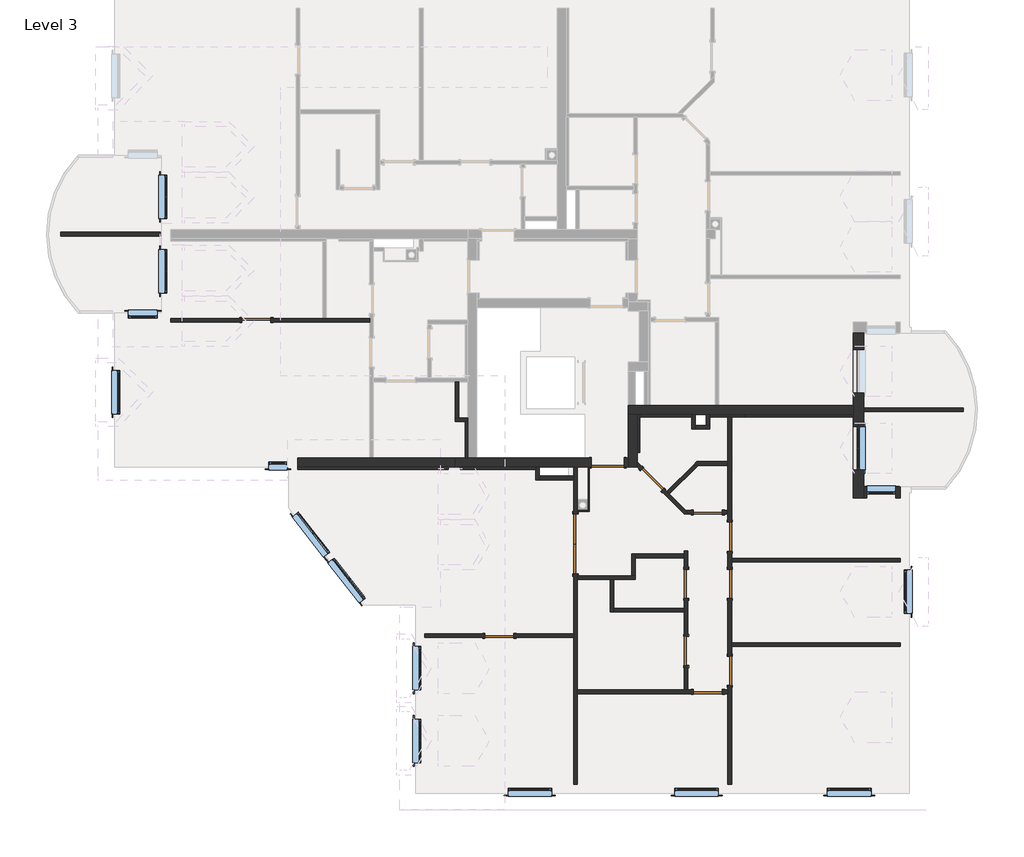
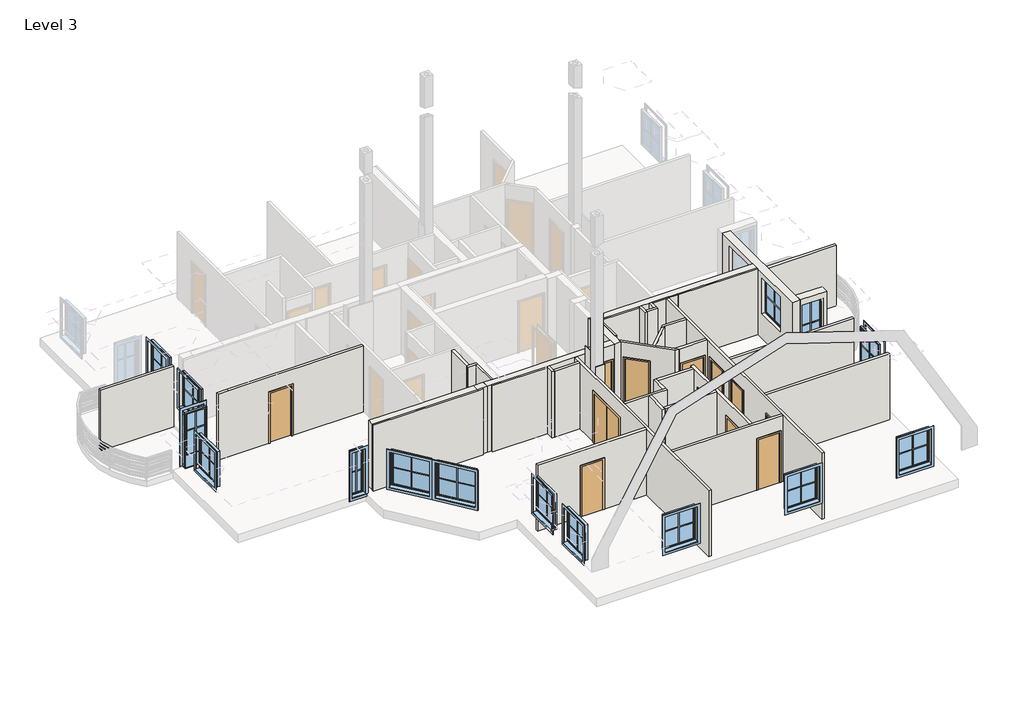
# One storey, part 1 of 5: 41 walls, 15 windows, 12 doors.
"""IFC4 building model written with IfcOpenShell, lengths in millimetres."""

from ifc_helpers import new_model, si_unit, frame, origin, place, context, project, spatial, polyline, outline, extrude, faceted_brep, transform, mapped, element, save
from components import m_double_flush_1640_x_2000mm_58610322, standard_door_sd_800x2000_6a16926d, standard_door_sd_800x2000_80f4ff25, standard_door_sd_900x2000_a6683946, standard_window_with_mullions_d3525f46, standard_window_with_mullions_80486b60, standard_window_with_mullions_8db575f9, window_2_775565f5, window_2_7caaedc8

model = new_model("IFC4")

# Units and contexts
model_context = context("Model", 3, world=origin())
ifc_project = project(units=[si_unit("LENGTHUNIT", "METRE", prefix="MILLI")], contexts=[model_context])

# Site, building, storey
site = spatial("IfcSite", under=ifc_project)
building = spatial("IfcBuilding", under=site)
storey = spatial("IfcBuildingStorey", under=building, Name="Level 3", Elevation=8850.0)

# Doors
placement = place(None, origin())
m_double_flush_1640_x_2000mm_shape = m_double_flush_1640_x_2000mm_58610322(model_context)
element("IfcDoor", 1, ObjectType="M_Double-Flush : 1640 x 2000mm", at=placement, inside=storey, context=model_context, shape_type="MappedRepresentation", body=[
    mapped(m_double_flush_1640_x_2000mm_shape, transform((113.5618728, -4202.3709459, 8850.0), x_axis=(0.0, 1.0, 0.0), y_axis=(-1.0, 0.0, 0.0), z_axis=(0.0, 0.0, 1.0))),
])
standard_door_sd_800x2000_shape = standard_door_sd_800x2000_6a16926d(model_context)
element("IfcDoor", 2, ObjectType="Standard Door : SD 800x2000", at=placement, inside=storey, context=model_context, shape_type="MappedRepresentation", body=[
    mapped(standard_door_sd_800x2000_shape, transform((3162.8037835, -5302.3942243, 8850.0), x_axis=(0.0, -1.0, 0.0), y_axis=(1.0, 0.0, 0.0), z_axis=(0.0, 0.0, 1.0))),
])
element("IfcDoor", 3, ObjectType="Standard Door : SD 800x2000", at=placement, inside=storey, context=model_context, shape_type="MappedRepresentation", body=[
    mapped(standard_door_sd_800x2000_shape, transform((3162.8037835, -7157.3709459, 8850.0), x_axis=(0.0, -1.0, 0.0), y_axis=(1.0, 0.0, 0.0), z_axis=(0.0, 0.0, 1.0))),
])
element("IfcDoor", 4, ObjectType="Standard Door : SD 800x2000", at=placement, inside=storey, context=model_context, shape_type="MappedRepresentation", body=[
    mapped(standard_door_sd_800x2000_shape, transform((4362.8037835, -4002.3976507, 8850.0), x_axis=(0.0, 1.0, 0.0), y_axis=(-1.0, 0.0, 0.0), z_axis=(0.0, 0.0, 1.0))),
])
element("IfcDoor", 5, ObjectType="Standard Door : SD 800x2000", at=placement, inside=storey, context=model_context, shape_type="MappedRepresentation", body=[
    mapped(standard_door_sd_800x2000_shape, transform((2229.9981852, -2428.8520044, 8850.0), x_axis=(-0.7071057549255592, 0.7071078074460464, 0.0), y_axis=(-0.7071078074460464, -0.7071057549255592, 0.0), z_axis=(0.0, 0.0, 1.0))),
])
element("IfcDoor", 6, ObjectType="Standard Door : SD 800x2000", at=placement, inside=storey, context=model_context, shape_type="MappedRepresentation", body=[
    mapped(standard_door_sd_800x2000_shape, transform((-8680.4610589, 1967.6290541, 8850.0), x_axis=(-1.0, 0.0, 0.0), y_axis=(0.0, -1.0, 0.0), z_axis=(0.0, 0.0, 1.0))),
])
standard_door_sd_800x2000_2_shape = standard_door_sd_800x2000_80f4ff25(model_context)
element("IfcDoor", 7, ObjectType="Standard Door : SD 800x2000", at=placement, inside=storey, context=model_context, shape_type="MappedRepresentation", body=[
    mapped(standard_door_sd_800x2000_2_shape, transform((-1986.8171719, -6732.3709459, 8850.0), x_axis=(-1.0, 0.0, 0.0), y_axis=(0.0, -1.0, 0.0), z_axis=(0.0, 0.0, 1.0))),
])
element("IfcDoor", 8, ObjectType="Standard Door : SD 800x2000", at=placement, inside=storey, context=model_context, shape_type="MappedRepresentation", body=[
    mapped(standard_door_sd_800x2000_2_shape, transform((3762.8037834, -8282.3709459, 8850.0), x_axis=(-1.0, 0.0, 0.0), y_axis=(0.0, -1.0, 0.0), z_axis=(0.0, 0.0, 1.0))),
])
element("IfcDoor", 9, ObjectType="Standard Door : SD 800x2000", at=placement, inside=storey, context=model_context, shape_type="MappedRepresentation", body=[
    mapped(standard_door_sd_800x2000_2_shape, transform((4362.8037835, -5302.394226, 8850.0), x_axis=(0.0, -1.0, 0.0), y_axis=(1.0, 0.0, 0.0), z_axis=(0.0, 0.0, 1.0))),
])
element("IfcDoor", 10, ObjectType="Standard Door : SD 800x2000", at=placement, inside=storey, context=model_context, shape_type="MappedRepresentation", body=[
    mapped(standard_door_sd_800x2000_2_shape, transform((4362.8037835, -7700.6759544, 8850.0), x_axis=(0.0, -1.0, 0.0), y_axis=(1.0, 0.0, 0.0), z_axis=(0.0, 0.0, 1.0))),
])
element("IfcDoor", 11, ObjectType="Standard Door : SD 800x2000", at=placement, inside=storey, context=model_context, shape_type="MappedRepresentation", body=[
    mapped(standard_door_sd_800x2000_2_shape, transform((3762.8037834, -3332.3709459, 8850.0), x_axis=(-0.9999999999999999, 0.0, 0.0), y_axis=(0.0, -0.9999999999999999, 0.0), z_axis=(0.0, 0.0, 1.0))),
])
standard_door_sd_900x2000_shape = standard_door_sd_900x2000_a6683946(model_context)
element("IfcDoor", 12, ObjectType="Standard Door : SD 900x2000", at=placement, inside=storey, context=model_context, shape_type="MappedRepresentation", body=[
    mapped(standard_door_sd_900x2000_shape, transform((1002.808136, -1957.3709459, 8850.0), x_axis=(1.0, 0.0, 0.0), y_axis=(0.0, 1.0, 0.0), z_axis=(0.0, 0.0, 1.0))),
])

# Walls
element("IfcWall", 13, ObjectType="Exterior - 100mm", at=placement, inside=storey, context=model_context, shape_type="SweptSolid", body=[
    extrude(outline(polyline([(-14076.3140436, 4392.6290541), (-11337.1962165, 4392.6290541), (-11337.1962165, 4292.6290541), (-14076.3140436, 4292.6290541), (-14076.3140436, 4392.6290541)])), frame((0.0, 0.0, 8850.0), z_axis=(0.0, 0.0, 1.0), x_axis=(1.0, 0.0, 0.0)), (0.0, 0.0, 1.0), 2400.0),
])
element("IfcWall", 14, ObjectType="Exterior - 100mm", at=placement, inside=storey, context=model_context, shape_type="SweptSolid", body=[
    extrude(outline(polyline([(10801.9216105, -557.3709459), (8062.8037835, -557.3709459), (8062.8037835, -457.3709459), (10801.9216105, -457.3709459), (10801.9216105, -557.3709459)])), frame((0.0, 0.0, 8850.0), z_axis=(0.0, 0.0, 1.0), x_axis=(1.0, 0.0, 0.0)), (0.0, 0.0, 1.0), 2400.0),
])
element("IfcWall", 15, ObjectType="Exterior - 250 + 50mm", at=placement, inside=storey, context=model_context, shape_type="Brep", body=[
    faceted_brep([(7762.8037835, -2932.3709459, 8850.0), (7762.8037835, -697.3709459, 8850.0), (7762.8037835, -632.3709459, 8850.0), (7762.8037835, -382.3709459, 8850.0), (7762.8037835, 1617.6290541, 8850.0), (8062.8037835, 1617.6290541, 8850.0), (8062.8037835, -457.3709459, 8850.0), (8062.8037835, -557.3709459, 8850.0), (8062.8037835, -2632.3709459, 8850.0), (8062.8037835, -2932.3709459, 8850.0), (7762.8037835, -2932.3709459, 11480.0), (7762.8037835, -697.3709459, 11480.0), (7762.8037835, -632.3709459, 11480.0), (7762.8037835, -382.3709459, 11480.0), (7762.8037835, 1617.6290541, 11480.0), (7762.8037835, -963.5367865, 9850.0), (7762.8037835, -963.5367865, 11250.0), (7762.8037835, -2163.5367865, 11250.0), (7762.8037835, -2163.5367865, 9850.0), (7762.8037835, 1155.9947187, 9850.0), (7762.8037835, 1155.9947187, 11250.0), (7762.8037835, -44.0052813, 11250.0), (7762.8037835, -44.0052813, 9850.0), (8062.8037835, 1617.6290541, 11480.0), (8062.8037835, -2632.3709459, 11480.0), (8062.8037835, -2932.3709459, 11480.0), (8062.8037835, -963.5367865, 9850.0), (8062.8037835, -2163.5367865, 9850.0), (8062.8037835, -2163.5367865, 11250.0), (8062.8037835, -963.5367865, 11250.0), (8062.8037835, 1155.9947187, 9850.0), (8062.8037835, -44.0052813, 9850.0), (8062.8037835, -44.0052813, 11250.0), (8062.8037835, 1155.9947187, 11250.0)], [[[0, 1, 2, 3, 4, 5, 6, 7, 8, 9]], [[4, 3, 2, 1, 0, 10, 11, 12, 13, 14], [15, 16, 17, 18], [19, 20, 21, 22]], [[5, 23, 24, 25, 9, 8, 7, 6], [26, 27, 28, 29], [30, 31, 32, 33]], [[4, 14, 23, 5]], [[10, 0, 9, 25]], [[14, 13, 12, 11, 10, 25, 24, 23]], [[16, 15, 26, 29]], [[17, 16, 29, 28]], [[18, 17, 28, 27]], [[15, 18, 27, 26]], [[20, 19, 30, 33]], [[21, 20, 33, 32]], [[22, 21, 32, 31]], [[19, 22, 31, 30]]]),
])
element("IfcWall", 16, ObjectType="Exterior - 250+50mm", at=placement, inside=storey, context=model_context, shape_type="SweptSolid", body=[
    extrude(outline(polyline([(11250.0, 8932.977935), (8850.0, 8932.977935), (8850.0, 9062.8037835), (11480.0, 9062.8037835), (11480.0, 8062.8037835), (8850.0, 8062.8037835), (8850.0, 8132.977935), (11250.0, 8132.977935), (11250.0, 8932.977935)])), frame((0.0, -2932.3709459, 0.0), z_axis=(0.0, 1.0, 0.0), x_axis=(0.0, 0.0, 1.0)), (0.0, 0.0, 1.0), 300.0),
])
element("IfcWall", 17, ObjectType="Interior - 100mm", at=placement, inside=storey, context=model_context, shape_type="SweptSolid", body=[
    extrude(outline(polyline([(-3207.1962165, -732.3709459), (-3207.1962165, 267.6290541), (-3107.1962165, 267.6290541), (-3107.1962165, -732.3709459), (-3207.1962165, -732.3709459)])), frame((0.0, 0.0, 8850.0), z_axis=(0.0, 0.0, 1.0), x_axis=(1.0, 0.0, 0.0)), (0.0, 0.0, 1.0), 2630.0),
])
element("IfcWall", 18, ObjectType="Interior - 100mm", at=placement, inside=storey, context=model_context, shape_type="Brep", body=[
    faceted_brep([(-3207.1962165, -832.3709459, 8850.0), (-2922.1962165, -832.3709459, 8850.0), (-2857.1962165, -832.3709459, 8850.0), (-2857.1962165, -832.3709459, 11480.0), (-2922.1962165, -832.3709459, 11480.0), (-3207.1962165, -832.3709459, 11480.0), (-3207.1962165, -732.3709459, 8850.0), (-3207.1962165, -732.3709459, 11480.0), (-3107.1962165, -732.3709459, 11480.0), (-2857.1962165, -732.3709459, 11480.0), (-2857.1962165, -732.3709459, 8850.0), (-3107.1962165, -732.3709459, 8850.0)], [[[0, 1, 2, 3, 4, 5]], [[6, 7, 8, 9, 10, 11]], [[2, 1, 0, 6, 11, 10]], [[0, 5, 7, 6]], [[3, 2, 10, 9]], [[5, 4, 3, 9, 8, 7]]]),
])
element("IfcWall", 19, ObjectType="Interior - 100mm", at=placement, inside=storey, context=model_context, shape_type="Brep", body=[
    faceted_brep([(-986.4381272, -2082.3709459, 8850.0), (-986.4381272, -2147.3709459, 8850.0), (-986.4381272, -2432.3709459, 8850.0), (-986.4381272, -2432.3709459, 11480.0), (-986.4381272, -2147.3709459, 11480.0), (-986.4381272, -2082.3709459, 11480.0), (-886.4381272, -2082.3709459, 8850.0), (-886.4381272, -2082.3709459, 11480.0), (-886.4381272, -2332.3709459, 11480.0), (-886.4381272, -2432.3709459, 11480.0), (-886.4381272, -2432.3709459, 8850.0), (-886.4381272, -2332.3709459, 8850.0)], [[[0, 1, 2, 3, 4, 5]], [[6, 7, 8, 9, 10, 11]], [[2, 1, 0, 6, 11, 10]], [[3, 2, 10, 9]], [[0, 5, 7, 6]], [[5, 4, 3, 9, 8, 7]]]),
])
element("IfcWall", 20, ObjectType="Interior - 100mm", at=placement, inside=storey, context=model_context, shape_type="Brep", body=[
    faceted_brep([(-886.4381272, -2432.3709459, 8850.0), (63.5618728, -2432.3709459, 8850.0), (63.5618728, -2432.3709459, 11480.0), (-886.4381272, -2432.3709459, 11480.0), (-886.4381272, -2332.3709459, 8850.0), (-886.4381272, -2332.3709459, 11480.0), (-86.4381272, -2332.3709459, 11480.0), (63.5618728, -2332.3709459, 11480.0), (63.5618728, -2332.3709459, 8850.0)], [[[0, 1, 2, 3]], [[4, 5, 6, 7, 8]], [[1, 0, 4, 8]], [[0, 3, 5, 4]], [[2, 1, 8, 7]], [[3, 2, 7, 6, 5]]]),
])
element("IfcWall", 21, ObjectType="Interior - 100mm", at=placement, inside=storey, context=model_context, shape_type="Brep", body=[
    faceted_brep([(3312.8037835, -632.3709459, 8850.0), (3312.8037835, -697.3709459, 8850.0), (3312.8037835, -1032.3709459, 8850.0), (3312.8037835, -1032.3709459, 11480.0), (3312.8037835, -697.3709459, 11480.0), (3312.8037835, -632.3709459, 11480.0), (3412.8037835, -632.3709459, 8850.0), (3412.8037835, -632.3709459, 11480.0), (3412.8037835, -932.3709459, 11480.0), (3412.8037835, -1032.3709459, 11480.0), (3412.8037835, -1032.3709459, 8850.0), (3412.8037835, -932.3709459, 8850.0)], [[[0, 1, 2, 3, 4, 5]], [[6, 7, 8, 9, 10, 11]], [[2, 1, 0, 6, 11, 10]], [[3, 2, 10, 9]], [[0, 5, 7, 6]], [[5, 4, 3, 9, 8, 7]]]),
])
element("IfcWall", 22, ObjectType="Interior - 100mm", at=placement, inside=storey, context=model_context, shape_type="Brep", body=[
    faceted_brep([(3412.8037835, -1032.3709459, 8850.0), (3812.8037835, -1032.3709459, 8850.0), (3812.8037835, -1032.3709459, 11480.0), (3412.8037835, -1032.3709459, 11480.0), (3412.8037835, -932.3709459, 8850.0), (3412.8037835, -932.3709459, 11480.0), (3712.8037835, -932.3709459, 11480.0), (3812.8037835, -932.3709459, 11480.0), (3812.8037835, -932.3709459, 8850.0), (3712.8037835, -932.3709459, 8850.0)], [[[0, 1, 2, 3]], [[4, 5, 6, 7, 8, 9]], [[1, 0, 4, 9, 8]], [[2, 1, 8, 7]], [[0, 3, 5, 4]], [[3, 2, 7, 6, 5]]]),
])
element("IfcWall", 23, ObjectType="Interior - 100mm", at=placement, inside=storey, context=model_context, shape_type="Brep", body=[
    faceted_brep([(3812.8037835, -932.3709459, 8850.0), (3812.8037835, -697.3709459, 8850.0), (3812.8037835, -632.3709459, 8850.0), (3812.8037835, -632.3709459, 11480.0), (3812.8037835, -697.3709459, 11480.0), (3812.8037835, -932.3709459, 11480.0), (3712.8037835, -932.3709459, 8850.0), (3712.8037835, -932.3709459, 11480.0), (3712.8037835, -632.3709459, 11480.0), (3712.8037835, -632.3709459, 8850.0)], [[[0, 1, 2, 3, 4, 5]], [[6, 7, 8, 9]], [[2, 1, 0, 6, 9]], [[0, 5, 7, 6]], [[3, 2, 9, 8]], [[5, 4, 3, 8, 7]]]),
])
element("IfcWall", 24, ObjectType="Interior - 100mm", at=placement, inside=storey, context=model_context, shape_type="Brep", body=[
    faceted_brep([(63.5618728, -2097.3540193, 8850.0), (63.5618728, -2097.3540193, 11480.0), (163.5618728, -2097.3540193, 11480.0), (163.5618728, -2097.3540193, 8850.0), (163.5618728, -3282.3709459, 8850.0), (163.5618728, -3312.3709459, 8850.0), (163.5618728, -3382.3709459, 8850.0), (63.5618728, -3382.3709459, 8850.0), (63.5618728, -2432.3709459, 8850.0), (63.5618728, -2332.3709459, 8850.0), (163.5618728, -5022.3709459, 8850.0), (163.5618728, -5082.3709459, 8850.0), (163.5618728, -5182.3709459, 8850.0), (163.5618728, -8232.3709459, 8850.0), (163.5618728, -8332.3709459, 8850.0), (163.5618728, -10832.3709459, 8850.0), (63.5618728, -10832.3709459, 8850.0), (63.5618728, -6782.3709459, 8850.0), (63.5618728, -6682.3709459, 8850.0), (63.5618728, -5022.3709459, 8850.0), (63.5618728, -3382.3709459, 10850.0), (63.5618728, -5022.3709459, 10850.0), (63.5618728, -10832.3709459, 11480.0), (63.5618728, -6782.3709459, 11480.0), (63.5618728, -6682.3709459, 11480.0), (63.5618728, -2432.3709459, 11480.0), (63.5618728, -2332.3709459, 11480.0), (163.5618728, -3382.3709459, 10850.0), (163.5618728, -5082.3709459, 11480.0), (163.5618728, -5182.3709459, 11480.0), (163.5618728, -8232.3709459, 11480.0), (163.5618728, -8332.3709459, 11480.0), (163.5618728, -10832.3709459, 11480.0), (163.5618728, -5022.3709459, 10850.0)], [[[0, 1, 2, 3]], [[3, 4, 5, 6, 7, 8, 9, 0]], [[10, 11, 12, 13, 14, 15, 16, 17, 18, 19]], [[0, 9, 8, 7, 20, 21, 19, 18, 17, 16, 22, 23, 24, 25, 26, 1]], [[27, 6, 5, 4, 3, 2, 28, 29, 30, 31, 32, 15, 14, 13, 12, 11, 10, 33]], [[22, 16, 15, 32]], [[1, 26, 25, 24, 23, 22, 32, 31, 30, 29, 28, 2]], [[20, 7, 6, 27]], [[21, 20, 27, 33]], [[19, 21, 33, 10]]]),
])
element("IfcWall", 25, ObjectType="Interior - 100mm", at=placement, inside=storey, context=model_context, shape_type="SweptSolid", body=[
    extrude(outline(polyline([(8850.0, -4037.1962165), (8850.0, -2386.8171719), (10850.0, -2386.8171719), (10850.0, -1586.8171719), (8850.0, -1586.8171719), (8850.0, 63.5618728), (11480.0, 63.5618728), (11480.0, -4037.1962165), (8850.0, -4037.1962165)])), frame((0.0, -6782.3709459, 0.0), z_axis=(0.0, 1.0, 0.0), x_axis=(0.0, 0.0, 1.0)), (0.0, 0.0, 1.0), 100.0),
])
element("IfcWall", 26, ObjectType="Interior - 100mm", at=placement, inside=storey, context=model_context, shape_type="Brep", body=[
    faceted_brep([(163.5618728, -5182.3709459, 8850.0), (1063.5618728, -5182.3709459, 8850.0), (1163.5618728, -5182.3709459, 8850.0), (1763.5618728, -5182.3709459, 8850.0), (1763.5618728, -5182.3709459, 11480.0), (1163.5618728, -5182.3709459, 11480.0), (1063.5618728, -5182.3709459, 11480.0), (163.5618728, -5182.3709459, 11480.0), (163.5618728, -5082.3709459, 8850.0), (163.5618728, -5082.3709459, 11480.0), (1663.5618728, -5082.3709459, 11480.0), (1763.5618728, -5082.3709459, 11480.0), (1763.5618728, -5082.3709459, 8850.0), (1663.5618728, -5082.3709459, 8850.0)], [[[0, 1, 2, 3, 4, 5, 6, 7]], [[8, 9, 10, 11, 12, 13]], [[3, 2, 1, 0, 8, 13, 12]], [[4, 3, 12, 11]], [[0, 7, 9, 8]], [[7, 6, 5, 4, 11, 10, 9]]]),
])
element("IfcWall", 27, ObjectType="Interior - 100mm", at=placement, inside=storey, context=model_context, shape_type="Brep", body=[
    faceted_brep([(1763.5618728, -5082.3709459, 8850.0), (1763.5618728, -4582.3709459, 8850.0), (1763.5618728, -4482.3709459, 8850.0), (1763.5618728, -4482.3709459, 11480.0), (1763.5618728, -4582.3709459, 11480.0), (1763.5618728, -5082.3709459, 11480.0), (1663.5618728, -5082.3709459, 8850.0), (1663.5618728, -5082.3709459, 11480.0), (1663.5618728, -4482.3709459, 11480.0), (1663.5618728, -4482.3709459, 8850.0)], [[[0, 1, 2, 3, 4, 5]], [[6, 7, 8, 9]], [[2, 1, 0, 6, 9]], [[3, 2, 9, 8]], [[0, 5, 7, 6]], [[5, 4, 3, 8, 7]]]),
])
element("IfcWall", 28, ObjectType="Interior - 100mm", at=placement, inside=storey, context=model_context, shape_type="SweptSolid", body=[
    extrude(outline(polyline([(3112.8037835, -4582.3709459), (1763.5618728, -4582.3709459), (1763.5618728, -4482.3709459), (3112.8037835, -4482.3709459), (3112.8037835, -4582.3709459)])), frame((0.0, 0.0, 8850.0), z_axis=(0.0, 0.0, 1.0), x_axis=(1.0, 0.0, 0.0)), (0.0, 0.0, 1.0), 2630.0),
])
element("IfcWall", 29, ObjectType="Interior - 100mm", at=placement, inside=storey, context=model_context, shape_type="Brep", body=[
    faceted_brep([(3112.8037835, -4397.3540193, 8850.0), (3112.8037835, -4397.3540193, 11480.0), (3212.8037835, -4397.3540193, 11480.0), (3212.8037835, -4397.3540193, 8850.0), (3112.8037835, -8232.3709459, 8850.0), (3112.8037835, -7557.3709459, 8850.0), (3212.8037835, -7557.3709459, 8850.0), (3212.8037835, -8232.3709459, 8850.0), (3112.8037835, -4902.3942243, 8850.0), (3112.8037835, -4582.3709459, 8850.0), (3112.8037835, -4482.3709459, 8850.0), (3212.8037835, -4902.3942243, 8850.0), (3112.8037835, -6757.3709459, 8850.0), (3112.8037835, -6082.3709459, 8850.0), (3112.8037835, -5982.3709459, 8850.0), (3112.8037835, -5702.3942243, 8850.0), (3212.8037835, -5702.3942243, 8850.0), (3212.8037835, -6757.3709459, 8850.0), (3112.8037835, -7557.3709459, 10850.0), (3112.8037835, -8232.3709459, 11480.0), (3112.8037835, -6082.3709459, 11480.0), (3112.8037835, -5982.3709459, 11480.0), (3112.8037835, -4582.3709459, 11480.0), (3112.8037835, -4482.3709459, 11480.0), (3112.8037835, -4902.3942243, 10850.0), (3112.8037835, -5702.3942243, 10850.0), (3112.8037835, -6757.3709459, 10850.0), (3212.8037835, -7557.3709459, 10850.0), (3212.8037835, -6757.3709459, 10850.0), (3212.8037835, -5702.3942243, 10850.0), (3212.8037835, -4902.3942243, 10850.0), (3212.8037835, -8232.3709459, 11480.0)], [[[0, 1, 2, 3]], [[4, 5, 6, 7]], [[8, 9, 10, 0, 3, 11]], [[12, 13, 14, 15, 16, 17]], [[18, 5, 4, 19, 20, 21, 22, 23, 1, 0, 10, 9, 8, 24, 25, 15, 14, 13, 12, 26]], [[7, 6, 27, 28, 17, 16, 29, 30, 11, 3, 2, 31]], [[19, 4, 7, 31]], [[1, 23, 22, 21, 20, 19, 31, 2]], [[29, 16, 15, 25]], [[30, 29, 25, 24]], [[11, 30, 24, 8]], [[27, 6, 5, 18]], [[28, 27, 18, 26]], [[17, 28, 26, 12]]]),
])
element("IfcWall", 30, ObjectType="Interior - 100mm", at=placement, inside=storey, context=model_context, shape_type="Brep", body=[
    faceted_brep([(1063.5618728, -5182.3709459, 8850.0), (1063.5618728, -6082.3709459, 8850.0), (1063.5618728, -6082.3709459, 11480.0), (1063.5618728, -5182.3709459, 11480.0), (1163.5618728, -5182.3709459, 8850.0), (1163.5618728, -5182.3709459, 11480.0), (1163.5618728, -5982.3709459, 11480.0), (1163.5618728, -6082.3709459, 11480.0), (1163.5618728, -6082.3709459, 8850.0), (1163.5618728, -5982.3709459, 8850.0)], [[[0, 1, 2, 3]], [[4, 5, 6, 7, 8, 9]], [[1, 0, 4, 9, 8]], [[2, 1, 8, 7]], [[0, 3, 5, 4]], [[3, 2, 7, 6, 5]]]),
])
element("IfcWall", 31, ObjectType="Interior - 100mm", at=placement, inside=storey, context=model_context, shape_type="SweptSolid", body=[
    extrude(outline(polyline([(3112.8037835, -6082.3709459), (1163.5618728, -6082.3709459), (1163.5618728, -5982.3709459), (3112.8037835, -5982.3709459), (3112.8037835, -6082.3709459)])), frame((0.0, 0.0, 8850.0), z_axis=(0.0, 0.0, 1.0), x_axis=(1.0, 0.0, 0.0)), (0.0, 0.0, 1.0), 2630.0),
])
element("IfcWall", 32, ObjectType="Interior - 100mm", at=placement, inside=storey, context=model_context, shape_type="Brep", body=[
    faceted_brep([(163.5618728, -8232.3709459, 8850.0), (3112.8037835, -8232.3709459, 8850.0), (3212.8037835, -8232.3709459, 8850.0), (3362.8037834, -8232.3709459, 8850.0), (3362.8037834, -8332.3709459, 8850.0), (163.5618728, -8332.3709459, 8850.0), (4162.8037834, -8232.3709459, 8850.0), (4312.8037835, -8232.3709459, 8850.0), (4312.8037835, -8332.3709459, 8850.0), (4162.8037834, -8332.3709459, 8850.0), (3362.8037834, -8332.3709459, 10850.0), (4162.8037834, -8332.3709459, 10850.0), (4312.8037835, -8332.3709459, 11480.0), (163.5618728, -8332.3709459, 11480.0), (3362.8037834, -8232.3709459, 10850.0), (163.5618728, -8232.3709459, 11480.0), (3112.8037835, -8232.3709459, 11480.0), (3212.8037835, -8232.3709459, 11480.0), (4312.8037835, -8232.3709459, 11480.0), (4162.8037834, -8232.3709459, 10850.0)], [[[0, 1, 2, 3, 4, 5]], [[6, 7, 8, 9]], [[5, 4, 10, 11, 9, 8, 12, 13]], [[14, 3, 2, 1, 0, 15, 16, 17, 18, 7, 6, 19]], [[5, 13, 15, 0]], [[12, 8, 7, 18]], [[13, 12, 18, 17, 16, 15]], [[10, 4, 3, 14]], [[11, 10, 14, 19]], [[9, 11, 19, 6]]]),
])
element("IfcWall", 33, ObjectType="Interior - 100mm", at=placement, inside=storey, context=model_context, shape_type="Brep", body=[
    faceted_brep([(1812.8076722, -1940.9494996, 8850.0), (1982.5112736, -2110.6535936, 8850.0), (1911.8004928, -2181.3641691, 8850.0), (1812.807557, -2082.3709459, 8850.0), (2548.1958775, -2676.3398396, 8850.0), (2629.2247893, -2757.3689866, 8850.0), (2699.9353648, -2828.0797673, 8850.0), (3154.2252247, -3282.3709459, 8850.0), (3254.2249345, -3382.3709459, 8850.0), (3112.8037835, -3382.3709459, 8850.0), (2477.4850968, -2747.0504151, 8850.0), (1911.8004928, -2181.3641691, 10850.0), (2477.4850968, -2747.0504151, 10850.0), (3112.8037835, -3382.3709459, 11480.0), (1812.807557, -2082.3709459, 11480.0), (1982.5112736, -2110.6535936, 10850.0), (1812.8076722, -1940.9494996, 11480.0), (2629.2247893, -2757.3689866, 11480.0), (2699.9353648, -2828.0797673, 11480.0), (3154.2252247, -3282.3709459, 11480.0), (3254.2249345, -3382.3709459, 11480.0), (2548.1958775, -2676.3398396, 10850.0)], [[[0, 1, 2, 3]], [[4, 5, 6, 7, 8, 9, 10]], [[3, 2, 11, 12, 10, 9, 13, 14]], [[15, 1, 0, 16, 17, 18, 19, 20, 8, 7, 6, 5, 4, 21]], [[3, 14, 16, 0]], [[13, 9, 8, 20]], [[14, 13, 20, 19, 18, 17, 16]], [[11, 2, 1, 15]], [[12, 11, 15, 21]], [[10, 12, 21, 4]]]),
])
element("IfcWall", 34, ObjectType="Interior - 100mm", at=placement, inside=storey, context=model_context, shape_type="Brep", body=[
    faceted_brep([(3154.2252247, -3282.3709459, 8850.0), (3362.8037834, -3282.3709459, 8850.0), (3362.8037834, -3382.3709459, 8850.0), (3254.2249345, -3382.3709459, 8850.0), (4162.8037834, -3282.3709459, 8850.0), (4312.8037835, -3282.3709459, 8850.0), (4312.8037835, -3382.3709459, 8850.0), (4162.8037834, -3382.3709459, 8850.0), (3362.8037834, -3382.3709459, 10850.0), (4162.8037834, -3382.3709459, 10850.0), (4312.8037835, -3382.3709459, 11480.0), (3254.2249345, -3382.3709459, 11480.0), (3362.8037834, -3282.3709459, 10850.0), (3154.2252247, -3282.3709459, 11480.0), (4312.8037835, -3282.3709459, 11480.0), (4162.8037834, -3282.3709459, 10850.0)], [[[0, 1, 2, 3]], [[4, 5, 6, 7]], [[3, 2, 8, 9, 7, 6, 10, 11]], [[12, 1, 0, 13, 14, 5, 4, 15]], [[3, 11, 13, 0]], [[10, 6, 5, 14]], [[11, 10, 14, 13]], [[8, 2, 1, 12]], [[9, 8, 12, 15]], [[7, 9, 15, 4]]]),
])
element("IfcWall", 35, ObjectType="Interior - 100mm", at=placement, inside=storey, context=model_context, shape_type="Brep", body=[
    faceted_brep([(4312.8037835, -1932.3709459, 8850.0), (3454.2252247, -1932.3709459, 8850.0), (3454.2252247, -1932.3709459, 11480.0), (4312.8037835, -1932.3709459, 11480.0), (4312.8037835, -2032.3709459, 8850.0), (4312.8037835, -2032.3709459, 11480.0), (3495.6464959, -2032.3709459, 11480.0), (3354.2249345, -2032.3709459, 11480.0), (3354.2249345, -2032.3709459, 8850.0), (3495.6464959, -2032.3709459, 8850.0)], [[[0, 1, 2, 3]], [[4, 5, 6, 7, 8, 9]], [[1, 0, 4, 9, 8]], [[2, 1, 8, 7]], [[0, 3, 5, 4]], [[3, 2, 7, 6, 5]]]),
])
element("IfcWall", 36, ObjectType="Interior - 100mm", at=placement, inside=storey, context=model_context, shape_type="SweptSolid", body=[
    extrude(outline(polyline([(2629.2247893, -2757.3689866), (3354.2249345, -2032.3709459), (3495.6464959, -2032.3709459), (2699.9353648, -2828.0797673), (2629.2247893, -2757.3689866)])), frame((0.0, 0.0, 8850.0), z_axis=(0.0, 0.0, 1.0), x_axis=(1.0, 0.0, 0.0)), (0.0, 0.0, 1.0), 2630.0),
])
element("IfcWall", 37, ObjectType="Interior - 100mm", at=placement, inside=storey, context=model_context, shape_type="Brep", body=[
    faceted_brep([(4312.8037835, -10832.3709459, 8850.0), (4312.8037835, -8332.3709459, 8850.0), (4312.8037835, -8232.3709459, 8850.0), (4312.8037835, -8100.6759544, 8850.0), (4412.8037835, -8100.6759544, 8850.0), (4412.8037835, -10832.3709459, 8850.0), (4412.8037835, -697.3709459, 8850.0), (4412.8037835, -3602.3976507, 8850.0), (4312.8037835, -3602.3976507, 8850.0), (4312.8037835, -3382.3709459, 8850.0), (4312.8037835, -3282.3709459, 8850.0), (4312.8037835, -2032.3709459, 8850.0), (4312.8037835, -1932.3709459, 8850.0), (4312.8037835, -697.3709459, 8850.0), (4312.8037835, -7300.6759544, 8850.0), (4312.8037835, -5702.394226, 8850.0), (4412.8037835, -5702.394226, 8850.0), (4412.8037835, -6932.3709459, 8850.0), (4412.8037835, -7032.3709459, 8850.0), (4412.8037835, -7300.6759544, 8850.0), (4412.8037835, -4402.3976507, 8850.0), (4412.8037835, -4602.3709459, 8850.0), (4412.8037835, -4702.3709459, 8850.0), (4412.8037835, -4902.394226, 8850.0), (4312.8037835, -4902.394226, 8850.0), (4312.8037835, -4402.3976507, 8850.0), (4312.8037835, -3602.3976507, 10850.0), (4312.8037835, -4402.3976507, 10850.0), (4312.8037835, -4902.394226, 10850.0), (4312.8037835, -5702.394226, 10850.0), (4312.8037835, -7300.6759544, 10850.0), (4312.8037835, -8100.6759544, 10850.0), (4312.8037835, -10832.3709459, 11480.0), (4312.8037835, -8332.3709459, 11480.0), (4312.8037835, -8232.3709459, 11480.0), (4312.8037835, -3382.3709459, 11480.0), (4312.8037835, -3282.3709459, 11480.0), (4312.8037835, -2032.3709459, 11480.0), (4312.8037835, -1932.3709459, 11480.0), (4312.8037835, -697.3709459, 11480.0), (4412.8037835, -3602.3976507, 10850.0), (4412.8037835, -697.3709459, 11480.0), (4412.8037835, -4602.3709459, 11480.0), (4412.8037835, -4702.3709459, 11480.0), (4412.8037835, -6932.3709459, 11480.0), (4412.8037835, -7032.3709459, 11480.0), (4412.8037835, -10832.3709459, 11480.0), (4412.8037835, -8100.6759544, 10850.0), (4412.8037835, -7300.6759544, 10850.0), (4412.8037835, -5702.394226, 10850.0), (4412.8037835, -4902.394226, 10850.0), (4412.8037835, -4402.3976507, 10850.0)], [[[0, 1, 2, 3, 4, 5]], [[6, 7, 8, 9, 10, 11, 12, 13]], [[14, 15, 16, 17, 18, 19]], [[20, 21, 22, 23, 24, 25]], [[13, 12, 11, 10, 9, 8, 26, 27, 25, 24, 28, 29, 15, 14, 30, 31, 3, 2, 1, 0, 32, 33, 34, 35, 36, 37, 38, 39]], [[40, 7, 6, 41, 42, 43, 44, 45, 46, 5, 4, 47, 48, 19, 18, 17, 16, 49, 50, 23, 22, 21, 20, 51]], [[32, 0, 5, 46]], [[13, 39, 41, 6]], [[39, 38, 37, 36, 35, 34, 33, 32, 46, 45, 44, 43, 42, 41]], [[49, 16, 15, 29]], [[50, 49, 29, 28]], [[23, 50, 28, 24]], [[47, 4, 3, 31]], [[48, 47, 31, 30]], [[19, 48, 30, 14]], [[26, 8, 7, 40]], [[27, 26, 40, 51]], [[25, 27, 51, 20]]]),
])
element("IfcWall", 38, ObjectType="Interior - 100mm", at=placement, inside=storey, context=model_context, shape_type="SweptSolid", body=[
    extrude(outline(polyline([(9062.8037835, -7032.3709459), (4412.8037835, -7032.3709459), (4412.8037835, -6932.3709459), (9062.8037835, -6932.3709459), (9062.8037835, -7032.3709459)])), frame((0.0, 0.0, 8850.0), z_axis=(0.0, 0.0, 1.0), x_axis=(1.0, 0.0, 0.0)), (0.0, 0.0, 1.0), 2630.0),
])
element("IfcWall", 39, ObjectType="Interior - 100mm", at=placement, inside=storey, context=model_context, shape_type="SweptSolid", body=[
    extrude(outline(polyline([(9062.8037835, -4702.3709459), (4412.8037835, -4702.3709459), (4412.8037835, -4602.3709459), (9062.8037835, -4602.3709459), (9062.8037835, -4702.3709459)])), frame((0.0, 0.0, 8850.0), z_axis=(0.0, 0.0, 1.0), x_axis=(1.0, 0.0, 0.0)), (0.0, 0.0, 1.0), 2630.0),
])
element("IfcWall", 40, ObjectType="Interior - 100mm", at=placement, inside=storey, context=model_context, shape_type="Brep", body=[
    faceted_brep([(-11037.1962165, 2017.6290541, 8850.0), (-9080.4610589, 2017.6290541, 8850.0), (-9080.4610589, 1917.6290541, 8850.0), (-11037.1962165, 1917.6290541, 8850.0), (-8280.4610589, 2017.6290541, 8850.0), (-6857.1962165, 2017.6290541, 8850.0), (-6757.1962165, 2017.6290541, 8850.0), (-5557.1962165, 2017.6290541, 8850.0), (-5557.1962165, 1917.6290541, 8850.0), (-8280.4610589, 1917.6290541, 8850.0), (-9080.4610589, 1917.6290541, 10850.0), (-8280.4610589, 1917.6290541, 10850.0), (-5557.1962165, 1917.6290541, 11480.0), (-10656.4352243, 1917.6290541, 11480.0), (-11037.1962165, 1917.6290541, 11480.0), (-9080.4610589, 2017.6290541, 10850.0), (-11037.1962165, 2017.6290541, 11480.0), (-10656.4352243, 2017.6290541, 11480.0), (-6857.1962165, 2017.6290541, 11480.0), (-6757.1962165, 2017.6290541, 11480.0), (-5557.1962165, 2017.6290541, 11480.0), (-8280.4610589, 2017.6290541, 10850.0)], [[[0, 1, 2, 3]], [[4, 5, 6, 7, 8, 9]], [[3, 2, 10, 11, 9, 8, 12, 13, 14]], [[15, 1, 0, 16, 17, 18, 19, 20, 7, 6, 5, 4, 21]], [[3, 14, 16, 0]], [[12, 8, 7, 20]], [[14, 13, 17, 16]], [[13, 12, 20, 19, 18, 17]], [[10, 2, 1, 15]], [[11, 10, 15, 21]], [[9, 11, 21, 4]]]),
])
element("IfcWall", 41, ObjectType="Interior - 250mm", at=placement, inside=storey, context=model_context, shape_type="Brep", body=[
    faceted_brep([(7762.8037835, -382.3709459, 8850.0), (4062.8037835, -382.3709459, 8850.0), (3962.8037835, -382.3709459, 8850.0), (2177.8037835, -382.3709459, 8850.0), (2112.8037835, -382.3709459, 8850.0), (2012.8037835, -382.3709459, 8850.0), (1762.8087381, -382.3709459, 8850.0), (1562.8087381, -382.3709459, 8850.0), (1562.8087381, -382.3709459, 11480.0), (1762.8087381, -382.3709459, 11480.0), (2012.8037835, -382.3709459, 11480.0), (2112.8037835, -382.3709459, 11480.0), (2177.8037835, -382.3709459, 11480.0), (3962.8037835, -382.3709459, 11480.0), (4062.8037835, -382.3709459, 11480.0), (7762.8037835, -382.3709459, 11480.0), (7762.8037835, -632.3709459, 8850.0), (7762.8037835, -632.3709459, 11480.0), (3812.8037835, -632.3709459, 11480.0), (3712.8037835, -632.3709459, 11480.0), (3412.8037835, -632.3709459, 11480.0), (3312.8037835, -632.3709459, 11480.0), (1812.8087381, -632.3709459, 11480.0), (1562.8087381, -632.3709459, 11480.0), (1562.8087381, -632.3709459, 8850.0), (1812.8087381, -632.3709459, 8850.0), (3312.8037835, -632.3709459, 8850.0), (3412.8037835, -632.3709459, 8850.0), (3712.8037835, -632.3709459, 8850.0), (3812.8037835, -632.3709459, 8850.0)], [[[0, 1, 2, 3, 4, 5, 6, 7, 8, 9, 10, 11, 12, 13, 14, 15]], [[16, 17, 18, 19, 20, 21, 22, 23, 24, 25, 26, 27, 28, 29]], [[7, 6, 5, 4, 3, 2, 1, 0, 16, 29, 28, 27, 26, 25, 24]], [[8, 7, 24, 23]], [[0, 15, 17, 16]], [[15, 14, 13, 12, 11, 10, 9, 8, 23, 22, 21, 20, 19, 18, 17]]]),
])
element("IfcWall", 42, ObjectType="Interior - 250mm", at=placement, inside=storey, context=model_context, shape_type="Brep", body=[
    faceted_brep([(-3217.1962165, -2082.3709459, 11480.0), (-3217.1962165, -2082.3709459, 8850.0), (-3217.1962165, -1832.3709459, 8850.0), (-3217.1962165, -1832.3709459, 11480.0), (-7537.1962165, -2082.3709459, 8850.0), (-7537.1962165, -1832.3709459, 8850.0), (-5557.1962165, -1832.3709459, 8850.0), (-5457.1962165, -1832.3709459, 8850.0), (-3598.9496412, -2082.3709459, 11480.0), (-7537.1962165, -2082.3709459, 11480.0), (-7537.1962165, -1832.3709459, 11480.0), (-5557.1962165, -1832.3709459, 11480.0), (-5457.1962165, -1832.3709459, 11480.0), (-3598.9496412, -1832.3709459, 11480.0)], [[[0, 1, 2, 3]], [[1, 4, 5, 6, 7, 2]], [[4, 1, 0, 8, 9]], [[5, 10, 11, 12, 13, 3, 2, 7, 6]], [[4, 9, 10, 5]], [[9, 8, 13, 12, 11, 10]], [[8, 0, 3, 13]]]),
])
element("IfcWall", 43, ObjectType="Interior - 250mm", at=placement, inside=storey, context=model_context, shape_type="Brep", body=[
    faceted_brep([(1562.8087381, -632.3709459, 8850.0), (1562.8077606, -1832.3709459, 8850.0), (1562.807557, -2082.3709459, 8850.0), (1562.807557, -2082.3709459, 11480.0), (1562.8077606, -1832.3709459, 11480.0), (1562.8087381, -632.3709459, 11480.0), (1812.8087381, -632.3709459, 8850.0), (1812.8087381, -632.3709459, 11480.0), (1812.8076722, -1940.9494996, 11480.0), (1812.807557, -2082.3709459, 11480.0), (1812.807557, -2082.3709459, 8850.0), (1812.8076722, -1940.9494996, 8850.0)], [[[0, 1, 2, 3, 4, 5]], [[6, 7, 8, 9, 10, 11]], [[2, 1, 0, 6, 11, 10]], [[3, 2, 10, 9]], [[0, 5, 7, 6]], [[5, 4, 3, 9, 8, 7]]]),
])
element("IfcWall", 44, ObjectType="Interior - 250mm", at=placement, inside=storey, context=model_context, shape_type="Brep", body=[
    faceted_brep([(-3217.1962165, -2082.3709459, 8850.0), (-3217.1962165, -2082.3709459, 11480.0), (-3217.1962165, -1832.3709459, 11480.0), (-3217.1962165, -1832.3709459, 8850.0), (1562.807557, -2082.3709459, 8850.0), (1452.808136, -2082.3709459, 8850.0), (1452.808136, -1832.3709459, 8850.0), (1562.8077606, -1832.3709459, 8850.0), (552.808136, -2082.3709459, 8850.0), (493.5618728, -2082.3709459, 8850.0), (463.5618728, -2082.3709459, 8850.0), (-886.4381272, -2082.3709459, 8850.0), (-986.4381272, -2082.3709459, 8850.0), (-2922.1962165, -1832.3709459, 8850.0), (-2857.1962165, -1832.3709459, 8850.0), (-2607.1962165, -1832.3709459, 8850.0), (552.808136, -1832.3709459, 8850.0), (1452.808136, -2082.3709459, 10850.0), (1562.807557, -2082.3709459, 11480.0), (-86.4381272, -2082.3709459, 11480.0), (-886.4381272, -2082.3709459, 11480.0), (-986.4381272, -2082.3709459, 11480.0), (552.808136, -2082.3709459, 10850.0), (1452.808136, -1832.3709459, 10850.0), (552.808136, -1832.3709459, 10850.0), (-2922.1962165, -1832.3709459, 11480.0), (-2857.1962165, -1832.3709459, 11480.0), (-2607.1962165, -1832.3709459, 11480.0), (362.8037835, -1832.3709459, 11480.0), (1562.8077606, -1832.3709459, 11480.0)], [[[0, 1, 2, 3]], [[4, 5, 6, 7]], [[8, 9, 10, 11, 12, 0, 3, 13, 14, 15, 16]], [[17, 5, 4, 18, 19, 20, 21, 1, 0, 12, 11, 10, 9, 8, 22]], [[7, 6, 23, 24, 16, 15, 14, 13, 3, 2, 25, 26, 27, 28, 29]], [[18, 4, 7, 29]], [[1, 21, 20, 19, 18, 29, 28, 27, 26, 25, 2]], [[23, 6, 5, 17]], [[24, 23, 17, 22]], [[16, 24, 22, 8]]]),
])
element("IfcWall", 45, ObjectType="Interior - 300mm", at=placement, inside=storey, context=model_context, shape_type="Brep", body=[
    faceted_brep([(163.5618728, -3312.3709459, 8850.0), (493.5618728, -3312.3709459, 8850.0), (493.5618728, -3312.3709459, 11800.0), (163.5618728, -3312.3709459, 11800.0), (163.5618728, -3282.3709459, 8850.0), (163.5618728, -3282.3709459, 11800.0), (463.5618728, -3282.3709459, 11800.0), (493.5618728, -3282.3709459, 11800.0), (493.5618728, -3282.3709459, 8850.0), (463.5618728, -3282.3709459, 8850.0)], [[[0, 1, 2, 3]], [[4, 5, 6, 7, 8, 9]], [[1, 0, 4, 9, 8]], [[3, 2, 7, 6, 5]], [[2, 1, 8, 7]], [[0, 3, 5, 4]]]),
])
element("IfcWall", 46, ObjectType="Interior - 300mm", at=placement, inside=storey, context=model_context, shape_type="SweptSolid", body=[
    extrude(outline(polyline([(493.5618728, -2082.3709459), (493.5618728, -3282.3709459), (463.5618728, -3282.3709459), (463.5618728, -2082.3709459), (493.5618728, -2082.3709459)])), frame((0.0, 0.0, 8850.0), z_axis=(0.0, 0.0, 1.0), x_axis=(1.0, 0.0, 0.0)), (0.0, 0.0, 1.0), 2950.0),
])
element("IfcWall", 47, ObjectType="Interior - 65mm", at=placement, inside=storey, context=model_context, shape_type="SweptSolid", body=[
    extrude(outline(polyline([(8850.0, -7537.1962165), (8850.0, -3398.9496412), (11480.0, -3398.9496412), (11480.0, -3598.9496412), (11480.0, -7537.1962165), (8850.0, -7537.1962165)])), frame((0.0, -2147.3709459, 0.0), z_axis=(0.0, 1.0, 0.0), x_axis=(0.0, 0.0, 1.0)), (0.0, 0.0, 1.0), 65.0),
])
element("IfcWall", 48, ObjectType="Interior - 65mm", at=placement, inside=storey, context=model_context, shape_type="Brep", body=[
    faceted_brep([(1877.8037835, -1682.3709459, 8850.0), (1877.8037835, -697.3709459, 8850.0), (1877.8037835, -632.3709459, 8850.0), (1877.8037835, -632.3709459, 11480.0), (1877.8037835, -697.3709459, 11480.0), (1877.8037835, -1682.3709459, 11480.0), (1812.8037835, -1682.3709459, 8850.0), (1812.8037835, -1682.3709459, 11480.0), (1812.8037835, -632.3709459, 11480.0), (1812.8037835, -632.3709459, 8850.0)], [[[0, 1, 2, 3, 4, 5]], [[6, 7, 8, 9]], [[2, 1, 0, 6, 9]], [[0, 5, 7, 6]], [[3, 2, 9, 8]], [[5, 4, 3, 8, 7]]]),
])
element("IfcWall", 49, ObjectType="Interior - 65mm", at=placement, inside=storey, context=model_context, shape_type="SweptSolid", body=[
    extrude(outline(polyline([(3312.8037835, -697.3709459), (1877.8037835, -697.3709459), (1877.8037835, -632.3709459), (3312.8037835, -632.3709459), (3312.8037835, -697.3709459)])), frame((0.0, 0.0, 8850.0), z_axis=(0.0, 0.0, 1.0), x_axis=(1.0, 0.0, 0.0)), (0.0, 0.0, 1.0), 2630.0),
])
element("IfcWall", 50, ObjectType="Interior - 65mm", at=placement, inside=storey, context=model_context, shape_type="Brep", body=[
    faceted_brep([(3812.8037835, -697.3709459, 8850.0), (4312.8037835, -697.3709459, 8850.0), (4412.8037835, -697.3709459, 8850.0), (4762.8037835, -697.3709459, 8850.0), (4762.8037835, -697.3709459, 11480.0), (4412.8037835, -697.3709459, 11480.0), (4312.8037835, -697.3709459, 11480.0), (3812.8037835, -697.3709459, 11480.0), (3812.8037835, -632.3709459, 8850.0), (3812.8037835, -632.3709459, 11480.0), (4762.8037835, -632.3709459, 11480.0), (4762.8037835, -632.3709459, 8850.0)], [[[0, 1, 2, 3, 4, 5, 6, 7]], [[8, 9, 10, 11]], [[3, 2, 1, 0, 8, 11]], [[4, 3, 11, 10]], [[0, 7, 9, 8]], [[7, 6, 5, 4, 10, 9]]]),
])
element("IfcWall", 51, ObjectType="Interior - 65mm", at=placement, inside=storey, context=model_context, shape_type="SweptSolid", body=[
    extrude(outline(polyline([(7762.8037835, -697.3709459), (4762.8037835, -697.3709459), (4762.8037835, -632.3709459), (7762.8037835, -632.3709459), (7762.8037835, -697.3709459)])), frame((0.0, 0.0, 8850.0), z_axis=(0.0, 0.0, 1.0), x_axis=(1.0, 0.0, 0.0)), (0.0, 0.0, 1.0), 2630.0),
])
element("IfcWall", 52, ObjectType="Interior - 65mm", at=placement, inside=storey, context=model_context, shape_type="SweptSolid", body=[
    extrude(outline(polyline([(-2922.1962165, -1832.3709459), (-2922.1962165, -832.3709459), (-2857.1962165, -832.3709459), (-2857.1962165, -1832.3709459), (-2922.1962165, -1832.3709459)])), frame((0.0, 0.0, 8850.0), z_axis=(0.0, 0.0, 1.0), x_axis=(1.0, 0.0, 0.0)), (0.0, 0.0, 1.0), 2630.0),
])
element("IfcWall", 53, ObjectType="Interior - 65mm", at=placement, inside=storey, context=model_context, shape_type="SweptSolid", body=[
    extrude(outline(polyline([(-986.4381272, -2147.3709459), (-3066.4381272, -2147.3709459), (-3066.4381272, -2082.3709459), (-986.4381272, -2082.3709459), (-986.4381272, -2147.3709459)])), frame((0.0, 0.0, 8850.0), z_axis=(0.0, 0.0, 1.0), x_axis=(1.0, 0.0, 0.0)), (0.0, 0.0, 1.0), 2630.0),
])

# Windows
standard_window_with_mullions_shape = standard_window_with_mullions_d3525f46(model_context)
element("IfcWindow", 54, ObjectType="Standard Window with mullions : 1400/1400", at=placement, inside=storey, context=model_context, shape_type="MappedRepresentation", body=[
    mapped(standard_window_with_mullions_shape, transform((-7124.9120428, -3903.8415782, 8850.0), x_axis=(-0.6139406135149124, 0.7893522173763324, 0.0), y_axis=(-0.7893522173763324, -0.6139406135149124, 0.0), z_axis=(0.0, 0.0, 1.0))),
])
element("IfcWindow", 55, ObjectType="Standard Window with mullions : 1400/1400", at=placement, inside=storey, context=model_context, shape_type="MappedRepresentation", body=[
    mapped(standard_window_with_mullions_shape, transform((-6138.6323369, -5171.9154858, 8850.0), x_axis=(-0.6139406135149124, 0.7893522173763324, 0.0), y_axis=(-0.7893522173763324, -0.6139406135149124, 0.0), z_axis=(0.0, 0.0, 1.0))),
])
standard_window_with_mullions_2_shape = standard_window_with_mullions_80486b60(model_context)
element("IfcWindow", 56, ObjectType="Standard Window with mullions : 1200/1400", at=placement, inside=storey, context=model_context, shape_type="MappedRepresentation", body=[
    mapped(standard_window_with_mullions_2_shape, transform((-11187.1962165, 5367.6290548, 8850.0), x_axis=(0.0, 1.0, 0.0), y_axis=(-1.0, 0.0, 0.0), z_axis=(0.0, 0.0, 1.0))),
])
element("IfcWindow", 57, ObjectType="Standard Window with mullions : 1200/1400", at=placement, inside=storey, context=model_context, shape_type="MappedRepresentation", body=[
    mapped(standard_window_with_mullions_2_shape, transform((7912.8037835, -1563.5367865, 8850.0), x_axis=(0.0, -1.0, 0.0), y_axis=(1.0, 0.0, 0.0), z_axis=(0.0, 0.0, 1.0))),
])
element("IfcWindow", 58, ObjectType="Standard Window with mullions : 1200/1400", at=placement, inside=storey, context=model_context, shape_type="MappedRepresentation", body=[
    mapped(standard_window_with_mullions_2_shape, transform((-11187.1962165, 3317.6290548, 8850.0), x_axis=(0.0, 1.0, 0.0), y_axis=(-1.0, 0.0, 0.0), z_axis=(0.0, 0.0, 1.0))),
])
element("IfcWindow", 59, ObjectType="Standard Window with mullions : 1200/1400", at=placement, inside=storey, context=model_context, shape_type="MappedRepresentation", body=[
    mapped(standard_window_with_mullions_2_shape, transform((-1144.1249228, -10982.3709459, 8850.0), x_axis=(-1.0, 0.0, 0.0), y_axis=(0.0, -1.0, 0.0), z_axis=(0.0, 0.0, 1.0))),
])
element("IfcWindow", 60, ObjectType="Standard Window with mullions : 1200/1400", at=placement, inside=storey, context=model_context, shape_type="MappedRepresentation", body=[
    mapped(standard_window_with_mullions_2_shape, transform((3453.0392115, -10982.3709459, 8850.0), x_axis=(-1.0, 0.0, 0.0), y_axis=(0.0, -1.0, 0.0), z_axis=(0.0, 0.0, 1.0))),
])
element("IfcWindow", 61, ObjectType="Standard Window with mullions : 1200/1400", at=placement, inside=storey, context=model_context, shape_type="MappedRepresentation", body=[
    mapped(standard_window_with_mullions_2_shape, transform((7657.145058, -10982.3709459, 8850.0), x_axis=(-1.0, 0.0, 0.0), y_axis=(0.0, -1.0, 0.0), z_axis=(0.0, 0.0, 1.0))),
])
element("IfcWindow", 62, ObjectType="Standard Window with mullions : 1200/1400", at=placement, inside=storey, context=model_context, shape_type="MappedRepresentation", body=[
    mapped(standard_window_with_mullions_2_shape, transform((-4187.1962165, -9632.3709452, 8850.0), x_axis=(0.0, 1.0, 0.0), y_axis=(-1.0, 0.0, 0.0), z_axis=(0.0, 0.0, 1.0))),
])
element("IfcWindow", 63, ObjectType="Standard Window with mullions : 1200/1400", at=placement, inside=storey, context=model_context, shape_type="MappedRepresentation", body=[
    mapped(standard_window_with_mullions_2_shape, transform((-12487.1962165, -20.1346317, 8850.0), x_axis=(0.0, 1.0, 0.0), y_axis=(-1.0, 0.0, 0.0), z_axis=(0.0, 0.0, 1.0))),
])
element("IfcWindow", 64, ObjectType="Standard Window with mullions : 1200/1400", at=placement, inside=storey, context=model_context, shape_type="MappedRepresentation", body=[
    mapped(standard_window_with_mullions_2_shape, transform((9212.8037835, -5524.0530367, 8850.0), x_axis=(0.0, -1.0, 0.0), y_axis=(1.0, 0.0, 0.0), z_axis=(0.0, 0.0, 1.0))),
])
element("IfcWindow", 65, ObjectType="Standard Window with mullions : 1200/1400", at=placement, inside=storey, context=model_context, shape_type="MappedRepresentation", body=[
    mapped(standard_window_with_mullions_2_shape, transform((-4187.1962165, -7632.3709452, 8850.0), x_axis=(0.0, 1.0, 0.0), y_axis=(-1.0, 0.0, 0.0), z_axis=(0.0, 0.0, 1.0))),
])
standard_window_with_mullions_3_shape = standard_window_with_mullions_8db575f9(model_context)
element("IfcWindow", 66, ObjectType="Standard Window with mullions : 500/1800", at=placement, inside=storey, context=model_context, shape_type="MappedRepresentation", body=[
    mapped(standard_window_with_mullions_3_shape, transform((-8087.1962165, -1982.3709459, 8850.0), x_axis=(-1.0, 0.0, 0.0), y_axis=(0.0, -1.0, 0.0), z_axis=(0.0, 0.0, 1.0))),
])
window_2_shape = window_2_775565f5(model_context)
element("IfcWindow", 67, ObjectType="Window 2 : 800/2400", at=placement, inside=storey, context=model_context, shape_type="MappedRepresentation", body=[
    mapped(window_2_shape, transform((8532.977935, -2782.3709459, 8850.0), x_axis=(-1.0, 0.0, 0.0), y_axis=(0.0, -1.0, 0.0), z_axis=(0.0, 0.0, 1.0))),
])
window_2_2_shape = window_2_7caaedc8(model_context)
element("IfcWindow", 68, ObjectType="Window 2 : 800/2200", at=placement, inside=storey, context=model_context, shape_type="MappedRepresentation", body=[
    mapped(window_2_2_shape, transform((-11807.3703663, 2067.6290541, 8850.0), x_axis=(1.0, 0.0, 0.0), y_axis=(0.0, 1.0, 0.0), z_axis=(0.0, 0.0, 1.0))),
])

save(model, "model.ifc")
